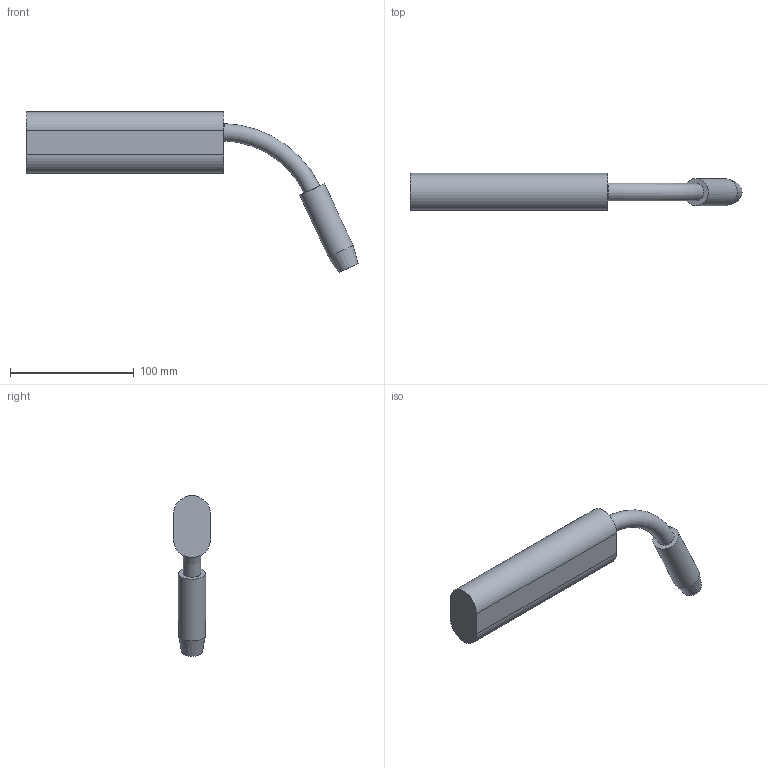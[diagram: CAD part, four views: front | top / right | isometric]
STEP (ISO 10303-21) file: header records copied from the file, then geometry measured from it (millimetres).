
FILE_DESCRIPTION((''),'2;1');
FILE_NAME('C:\Dokumente und Einstellungen\andreas\Eigene Dateien\MIGbrenner.stp','2009-06-08T18:13:28',('andreas'),(''),'Autodesk Inventor 2010','Autodesk Inventor 2010','');
FILE_SCHEMA(('AUTOMOTIVE_DESIGN { 1 0 10303 214 1 1 1 1 }'));
Length unit declared in the file: millimetre
Products named in the file (1): MIGbrenner
Bounding box: 268.44 x 30 x 129.93 mm (x, y, z)
Volume: 248210.1 mm3; surface area: 33351.2 mm2
Topology: 1 solids, 1 shells, 13 faces, 24 edges, 15 vertices
Faces by surface type: plane 8, cylinder 3, cone 1, torus 1
Full cylindrical faces by diameter (mm): 22 x1
Entity records: 396 total; most frequent: CARTESIAN_POINT 116, DIRECTION 56, ORIENTED_EDGE 42, AXIS2_PLACEMENT_3D 23, EDGE_CURVE 21, EDGE_LOOP 18, VERTEX_POINT 15, FACE_OUTER_BOUND 13
